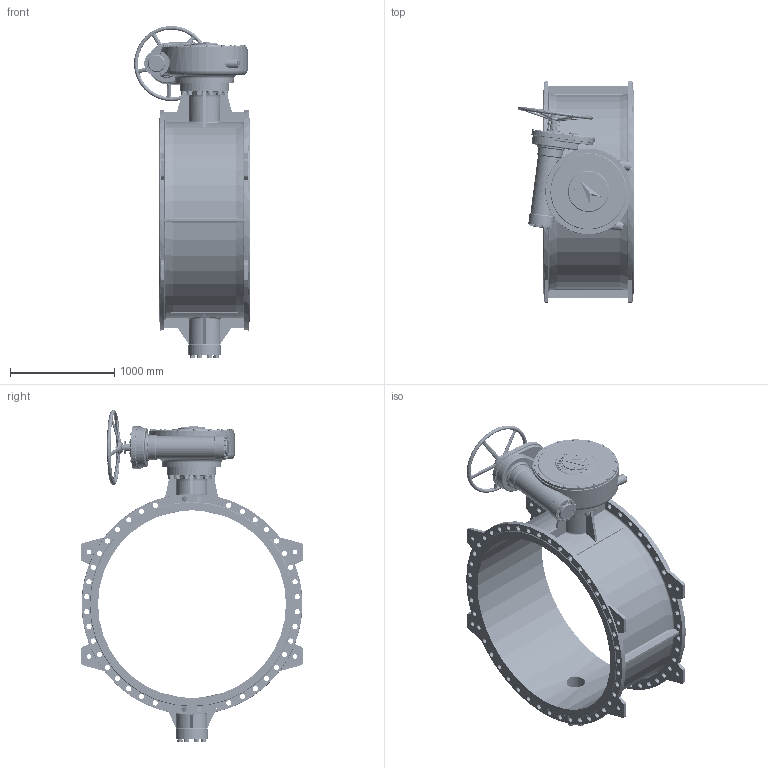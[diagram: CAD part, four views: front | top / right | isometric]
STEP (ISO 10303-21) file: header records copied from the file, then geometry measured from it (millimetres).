
FILE_DESCRIPTION (( 'STEP AP203' ), '1' );
FILE_NAME ('1800-10.STEP', '2014-11-06T06:43:03', ( '微软用户' ), ( '微软中国' ), 'SwSTEP 2.0', 'SolidWorks 2012', '' );
FILE_SCHEMA (( 'CONFIG_CONTROL_DESIGN' ));
Length unit declared in the file: millimetre
Products named in the file (38): 1800-10; GB-T5783 六角头螺栓M36-304_六角头螺栓M36X140; GB-T95 平垫圈-304_平垫圈33; GB-T93 ｵｯｻﾉｵ貶ｦ-304_ｵｯｻﾉｵ貶ｦ36; 8#F40; GB-T5783 六角头螺栓M10-304_六角头螺栓M10X20; GB-T5783 六角头螺栓M8-304_六角头螺栓M8X25; -09 粣創傷裔; GB-T95 平垫圈-304_平垫圈10; GB-T93 ｵｯｻﾉｵ貶ｦ-304_ｵｯｻﾉｵ貶ｦ10; GB-T5783 六角头螺栓M10-304_六角头螺栓M10X35; GB-T5783 六角头螺栓M12-304_六角头螺栓M12X45; GB-T93 ｵｯｻﾉｵ貶ｦ-304_ｵｯｻﾉｵ貶ｦ12; GB-T95 平垫圈-304_平垫圈12; GB-T95 平垫圈-304_平垫圈16; GB-T93 ｵｯｻﾉｵ貶ｦ-304_ｵｯｻﾉｵ貶ｦ16; GB-T5783 六角头螺栓M16-304_六角头螺栓M16X55; GB-T5783 六角头螺栓M8-304_六角头螺栓M8X20; GB-T93 ｵｯｻﾉｵ貶ｦ-304_ｵｯｻﾉｵ貶ｦ8; GB-T95 平垫圈-304_平垫圈8; -10 垫圈; -01 忒謫; ﾁ羮2^8#F40; -02 萇雄蟀諉釱; -03 癹弇蹟邡裔; -02 硌尨啣; -04 埴翐眊裔; -05 喘謫眊裔躇猾菜; -07 埴翐喘謫眊极; -05 綴傷裔; -07躇猾菜; -01 恘謫眊裔; F40眊极; GB-T95 平垫圈-304_平垫圈30; GB-T93 ｵｯｻﾉｵ貶ｦ-304_ｵｯｻﾉｵ貶ｦ30; GB-T5783 六角头螺栓M30-304_六角头螺栓M30X90; 錨璃2^1800-10; 1800 10概极_揤坫阨盄
Assembly tree (249 placements, depth 3):
  1800-10
    1800 10概极_揤坫阨盄
    錨璃2^1800-10
    GB-T5783 六角头螺栓M30-304_六角头螺栓M30X90  x8
    GB-T93 ｵｯｻﾉｵ貶ｦ-304_ｵｯｻﾉｵ貶ｦ30  x8
    GB-T95 平垫圈-304_平垫圈30  x8
    8#F40
      F40眊极
      -01 恘謫眊裔
      -07躇猾菜  x2
      -05 綴傷裔
      -07 埴翐喘謫眊极
      -05 喘謫眊裔躇猾菜
      -04 埴翐眊裔
      -02 硌尨啣
      -03 癹弇蹟邡裔  x2
      -02 萇雄蟀諉釱
      ﾁ羮2^8#F40
      -01 忒謫
      -10 垫圈
      GB-T95 平垫圈-304_平垫圈8  x12
      GB-T93 ｵｯｻﾉｵ貶ｦ-304_ｵｯｻﾉｵ貶ｦ8  x12
      GB-T5783 六角头螺栓M8-304_六角头螺栓M8X20  x8
      GB-T5783 六角头螺栓M16-304_六角头螺栓M16X55  x12
      GB-T93 ｵｯｻﾉｵ貶ｦ-304_ｵｯｻﾉｵ貶ｦ16  x12
      GB-T95 平垫圈-304_平垫圈16  x12
      GB-T95 平垫圈-304_平垫圈12  x16
      GB-T93 ｵｯｻﾉｵ貶ｦ-304_ｵｯｻﾉｵ貶ｦ12  x16
      GB-T5783 六角头螺栓M12-304_六角头螺栓M12X45  x16
      GB-T5783 六角头螺栓M10-304_六角头螺栓M10X35  x17
      GB-T93 ｵｯｻﾉｵ貶ｦ-304_ｵｯｻﾉｵ貶ｦ10  x19
      GB-T95 平垫圈-304_平垫圈10  x12
      -09 粣創傷裔
      GB-T5783 六角头螺栓M8-304_六角头螺栓M8X25  x4
      GB-T5783 六角头螺栓M10-304_六角头螺栓M10X20  x2
    GB-T93 ｵｯｻﾉｵ貶ｦ-304_ｵｯｻﾉｵ貶ｦ36  x12
    GB-T95 平垫圈-304_平垫圈33  x12
    GB-T5783 六角头螺栓M36-304_六角头螺栓M36X140  x12
Bounding box: 1108.84 x 2125 x 3180.57 mm (x, y, z)
Volume: 360127384.7 mm3; surface area: 25938647.2 mm2
Topology: 249 solids, 249 shells, 4542 faces, 11276 edges, 7325 vertices
Faces by surface type: cylinder 2142, plane 1820, cone 247, bspline 212, torus 121
Entity records: 116457 total; most frequent: CARTESIAN_POINT 40948, DIRECTION 14013, ORIENTED_EDGE 13432, EDGE_CURVE 6716, AXIS2_PLACEMENT_3D 5503, VERTEX_POINT 4395, EDGE_LOOP 3321, LINE 3007
